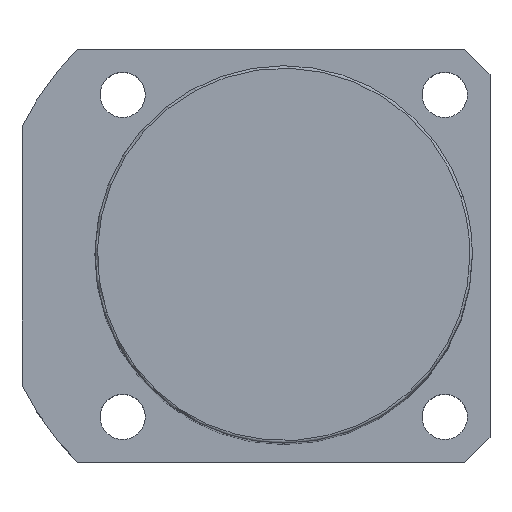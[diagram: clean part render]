
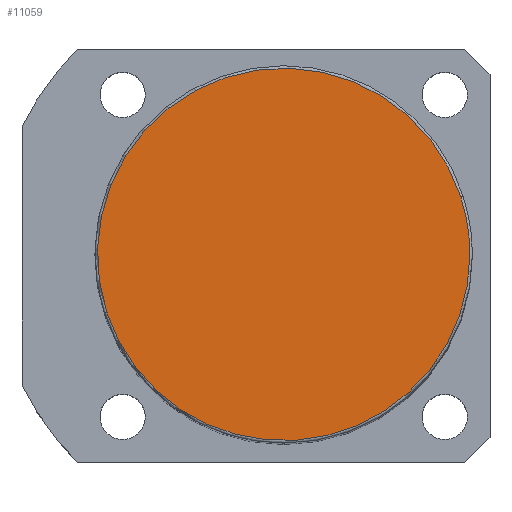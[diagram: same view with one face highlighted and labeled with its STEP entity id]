
A CAD part, top view. The second image highlights one B-rep face of the part: STEP entity #11059.
In plain terms, the highlighted planar face has unit normal (0, 0, 1).
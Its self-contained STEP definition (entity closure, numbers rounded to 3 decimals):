
#11025=CARTESIAN_POINT('',(37.0,0.0,178.0));
#11026=VERTEX_POINT('',#11025);
#11027=CARTESIAN_POINT('',(35.189,11.434,178.0));
#11028=VERTEX_POINT('',#11027);
#11029=CARTESIAN_POINT('',(0.0,0.0,178.0));
#11030=DIRECTION('',(0.0,0.0,1.0));
#11031=DIRECTION('',(1.0,0.0,0.0));
#11032=AXIS2_PLACEMENT_3D('',#11029,#11030,#11031);
#11033=CIRCLE('',#11032,37.0);
#11034=EDGE_CURVE('no 5128',#11026,#11028,#11033,.T.);
#11035=ORIENTED_EDGE('',*,*,#11034,.T.);
#11036=CARTESIAN_POINT('',(-35.189,-11.434,178.0));
#11037=VERTEX_POINT('',#11036);
#11038=CARTESIAN_POINT('',(0.0,0.0,178.0));
#11039=DIRECTION('',(0.0,0.0,1.0));
#11040=DIRECTION('',(1.0,0.0,0.0));
#11041=AXIS2_PLACEMENT_3D('',#11038,#11039,#11040);
#11042=CIRCLE('',#11041,37.0);
#11043=EDGE_CURVE('no 5134',#11028,#11037,#11042,.T.);
#11044=ORIENTED_EDGE('',*,*,#11043,.T.);
#11045=CARTESIAN_POINT('',(0.0,0.0,178.0));
#11046=DIRECTION('',(0.0,0.0,1.0));
#11047=DIRECTION('',(1.0,0.0,0.0));
#11048=AXIS2_PLACEMENT_3D('',#11045,#11046,#11047);
#11049=CIRCLE('',#11048,37.0);
#11050=EDGE_CURVE('no 5138',#11037,#11026,#11049,.T.);
#11051=ORIENTED_EDGE('',*,*,#11050,.T.);
#11052=EDGE_LOOP('',(#11035,#11044,#11051));
#11053=FACE_OUTER_BOUND('',#11052,.T.);
#11054=CARTESIAN_POINT('',(0.0,0.0,178.0));
#11055=DIRECTION('',(0.0,0.0,1.0));
#11056=DIRECTION('',(1.0,0.0,0.0));
#11057=AXIS2_PLACEMENT_3D('',#11054,#11055,#11056);
#11058=PLANE('',#11057);
#11059=ADVANCED_FACE('no 5119',(#11053),#11058,.T.);
